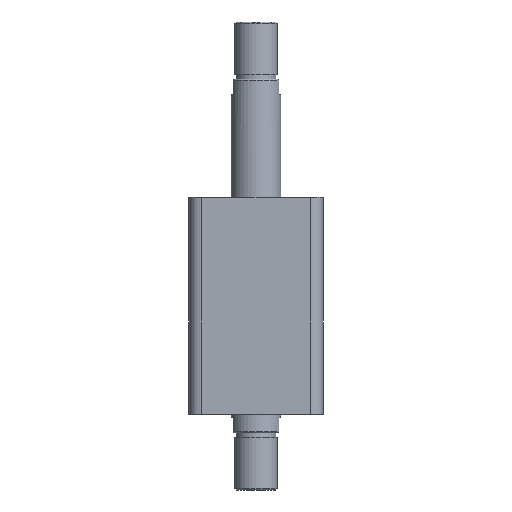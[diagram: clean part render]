
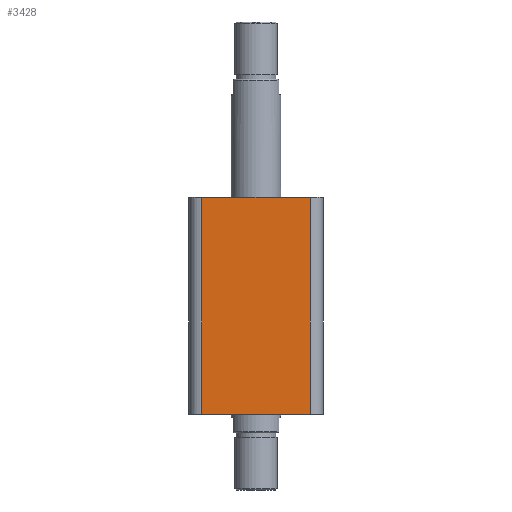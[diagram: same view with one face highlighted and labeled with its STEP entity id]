
A CAD part, front view. The second image highlights one B-rep face of the part: STEP entity #3428.
In plain terms, the highlighted planar face has unit normal (0, -1, 0).
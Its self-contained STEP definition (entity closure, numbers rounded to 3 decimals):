
#182 = CARTESIAN_POINT ( 'NONE',  ( -38., -47., 152. ) ) ;
#265 = FACE_OUTER_BOUND ( 'NONE', #2119, .T. ) ;
#995 = CARTESIAN_POINT ( 'NONE',  ( -47., -47., 152. ) ) ;
#999 = PLANE ( 'NONE',  #2522 ) ;
#1001 = DIRECTION ( 'NONE',  ( 0., 1., 0. ) ) ;
#1002 = DIRECTION ( 'NONE',  ( 0., 0., 1. ) ) ;
#1644 = LINE ( 'NONE', #2712, #1647 ) ;
#1645 = LINE ( 'NONE', #2711, #1649 ) ;
#1647 = VECTOR ( 'NONE', #2694, 1000. ) ;
#1648 = LINE ( 'NONE', #2717, #1651 ) ;
#1649 = VECTOR ( 'NONE', #2716, 1000. ) ;
#1650 = LINE ( 'NONE', #2719, #1653 ) ;
#1651 = VECTOR ( 'NONE', #2718, 1000. ) ;
#1653 = VECTOR ( 'NONE', #2720, 1000. ) ;
#1919 = ORIENTED_EDGE ( 'NONE', *, *, #2199, .T. ) ;
#1920 = ORIENTED_EDGE ( 'NONE', *, *, #2200, .T. ) ;
#1921 = ORIENTED_EDGE ( 'NONE', *, *, #2201, .T. ) ;
#1922 = ORIENTED_EDGE ( 'NONE', *, *, #2202, .F. ) ;
#1927 = VERTEX_POINT ( 'NONE', #3372 ) ;
#1928 = VERTEX_POINT ( 'NONE', #3363 ) ;
#1931 = VERTEX_POINT ( 'NONE', #3378 ) ;
#1942 = VERTEX_POINT ( 'NONE', #182 ) ;
#2119 = EDGE_LOOP ( 'NONE', ( #1922, #1921, #1920, #1919 ) ) ;
#2199 = EDGE_CURVE ( 'NONE', #1927, #1931, #1644, .T. ) ;
#2200 = EDGE_CURVE ( 'NONE', #1928, #1927, #1645, .T. ) ;
#2201 = EDGE_CURVE ( 'NONE', #1942, #1928, #1648, .T. ) ;
#2202 = EDGE_CURVE ( 'NONE', #1942, #1931, #1650, .T. ) ;
#2522 = AXIS2_PLACEMENT_3D ( 'NONE', #995, #1001, #1002 ) ;
#2694 = DIRECTION ( 'NONE',  ( 0., 0., 1. ) ) ;
#2711 = CARTESIAN_POINT ( 'NONE',  ( -47., -47., 0. ) ) ;
#2712 = CARTESIAN_POINT ( 'NONE',  ( 38., -47., 152. ) ) ;
#2716 = DIRECTION ( 'NONE',  ( 1., 0., 0. ) ) ;
#2717 = CARTESIAN_POINT ( 'NONE',  ( -38., -47., 152. ) ) ;
#2718 = DIRECTION ( 'NONE',  ( 0., 0., -1. ) ) ;
#2719 = CARTESIAN_POINT ( 'NONE',  ( -47., -47., 152. ) ) ;
#2720 = DIRECTION ( 'NONE',  ( 1., 0., 0. ) ) ;
#3363 = CARTESIAN_POINT ( 'NONE',  ( -38., -47., 0. ) ) ;
#3372 = CARTESIAN_POINT ( 'NONE',  ( 38., -47., 0. ) ) ;
#3378 = CARTESIAN_POINT ( 'NONE',  ( 38., -47., 152. ) ) ;
#3428 = ADVANCED_FACE ( 'NONE', ( #265 ), #999, .F. ) ;
